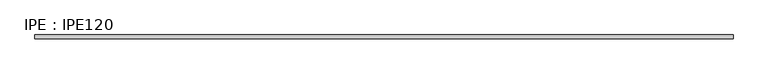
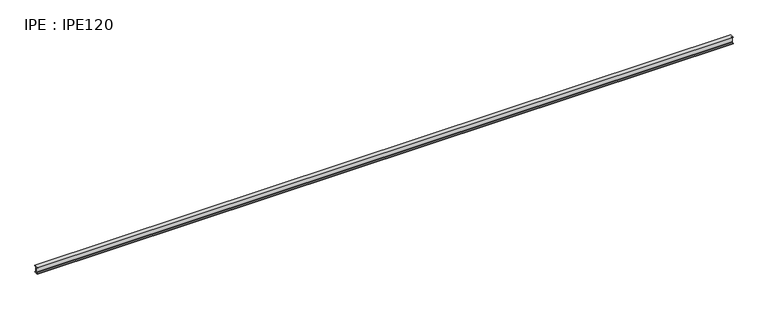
"""IFC4 building model written with IfcOpenShell, lengths in millimetres: beam geometry, IPE : IPE120."""

from ifc_helpers import new_model, si_unit, point, frame, frame_2d, origin, place, context, project, spatial, polyline, circle_curve, trimmed, segment, composite_curve, outline, extrude, source, transform, mapped, element, save


def ipe_ipe120_51c86144(model_context):
    return source(origin(), model_context, "Body", "SweptSolid", [
        extrude(outline(composite_curve([segment(polyline([(-32.0, -53.7), (-9.2, -53.7)]), True, "CONTINUOUS"), segment(trimmed(circle_curve(frame_2d((-9.2, -46.7)), 7.0), [point((-9.2, -53.7))], [point((-2.2, -46.7))], True, "CARTESIAN"), True, "CONTINUOUS"), segment(polyline([(-2.2, -46.7), (-2.2, 46.7)]), True, "CONTINUOUS"), segment(trimmed(circle_curve(frame_2d((-9.2, 46.7)), 7.0), [point((-2.2, 46.7))], [point((-9.2, 53.7))], True, "CARTESIAN"), True, "CONTINUOUS"), segment(polyline([(-9.2, 53.7), (-32.0, 53.7), (-32.0, 60.0), (32.0, 60.0), (32.0, 53.7), (9.2, 53.7)]), True, "CONTINUOUS"), segment(trimmed(circle_curve(frame_2d((9.2, 46.7)), 7.0), [point((9.2, 53.7))], [point((2.2, 46.7))], True, "CARTESIAN"), True, "CONTINUOUS"), segment(polyline([(2.2, 46.7), (2.2, -46.7)]), True, "CONTINUOUS"), segment(trimmed(circle_curve(frame_2d((9.2, -46.7)), 7.0), [point((2.2, -46.7))], [point((9.2, -53.7))], True, "CARTESIAN"), True, "CONTINUOUS"), segment(polyline([(9.2, -53.7), (32.0, -53.7), (32.0, -60.0), (-32.0, -60.0), (-32.0, -53.7)]), True, "CONTINUOUS")], self_intersect=False)), frame((-6000.0, 0.0, 0.0), z_axis=(1.0, 0.0, 0.0), x_axis=(0.0, 1.0, 0.0)), (0.0, 0.0, 1.0), 12097.5),
    ])


if __name__ == "__main__":
    model = new_model("IFC4")
    model_context = context("Model", 3, world=origin())
    ifc_project = project(units=[si_unit("LENGTHUNIT", "METRE", prefix="MILLI")], contexts=[model_context])
    site = spatial("IfcSite", under=ifc_project)
    building = spatial("IfcBuilding", under=site)
    placement = place(None, origin())
    ipe_ipe120_shape = ipe_ipe120_51c86144(model_context)
    element("IfcBeam", 1, ObjectType="IPE : IPE120", at=placement, inside=building, context=model_context, shape_type="MappedRepresentation", body=[
        mapped(ipe_ipe120_shape, transform((0.0, 0.0, 0.0), x_axis=(1.0, 0.0, 0.0), y_axis=(0.0, 1.0, 0.0), z_axis=(0.0, 0.0, 1.0))),
    ])
    save(model, "model.ifc")
